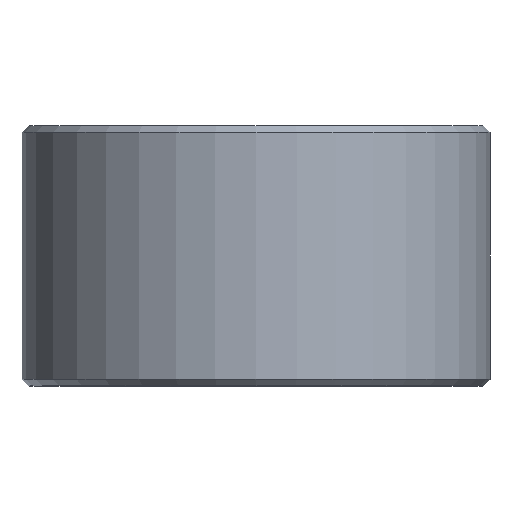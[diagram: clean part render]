
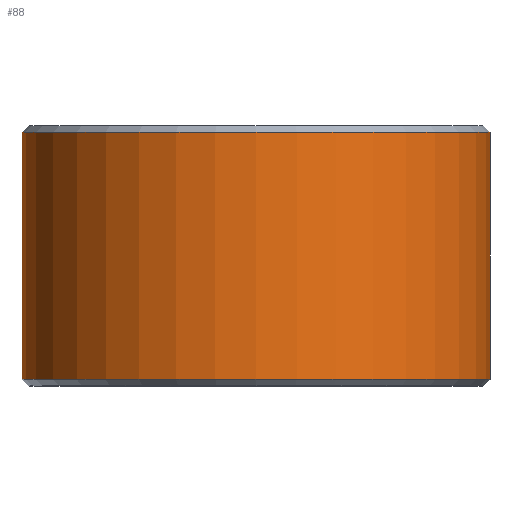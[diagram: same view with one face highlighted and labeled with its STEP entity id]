
A CAD part, top view. The second image highlights one B-rep face of the part: STEP entity #88.
In plain terms, the highlighted cylindrical face has radius 9 mm (diameter 18 mm), a full revolution.
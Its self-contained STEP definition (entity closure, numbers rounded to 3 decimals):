
#19=CYLINDRICAL_SURFACE('',#110,9.);
#22=FACE_OUTER_BOUND('',#28,.T.);
#28=EDGE_LOOP('',(#69,#70,#71,#72));
#36=LINE('',#159,#40);
#40=VECTOR('',#132,9.);
#43=CIRCLE('',#108,9.);
#45=CIRCLE('',#111,9.);
#49=VERTEX_POINT('',#151);
#51=VERTEX_POINT('',#157);
#55=EDGE_CURVE('',#49,#49,#43,.T.);
#58=EDGE_CURVE('',#51,#51,#45,.T.);
#59=EDGE_CURVE('',#51,#49,#36,.T.);
#69=ORIENTED_EDGE('',*,*,#58,.F.);
#70=ORIENTED_EDGE('',*,*,#59,.T.);
#71=ORIENTED_EDGE('',*,*,#55,.F.);
#72=ORIENTED_EDGE('',*,*,#59,.F.);
#88=ADVANCED_FACE('',(#22),#19,.T.);
#108=AXIS2_PLACEMENT_3D('',#152,#123,#124);
#110=AXIS2_PLACEMENT_3D('',#156,#128,#129);
#111=AXIS2_PLACEMENT_3D('',#158,#130,#131);
#123=DIRECTION('center_axis',(0.,-1.,0.));
#124=DIRECTION('ref_axis',(1.,0.,0.));
#128=DIRECTION('center_axis',(0.,1.,0.));
#129=DIRECTION('ref_axis',(1.,0.,0.));
#130=DIRECTION('center_axis',(0.,1.,0.));
#131=DIRECTION('ref_axis',(1.,0.,0.));
#132=DIRECTION('',(0.,-1.,0.));
#151=CARTESIAN_POINT('',(-9.,0.25,0.));
#152=CARTESIAN_POINT('Origin',(0.,0.25,0.));
#156=CARTESIAN_POINT('Origin',(0.,0.,0.));
#157=CARTESIAN_POINT('',(-9.,9.75,0.));
#158=CARTESIAN_POINT('Origin',(0.,9.75,0.));
#159=CARTESIAN_POINT('',(-9.,0.,0.));
